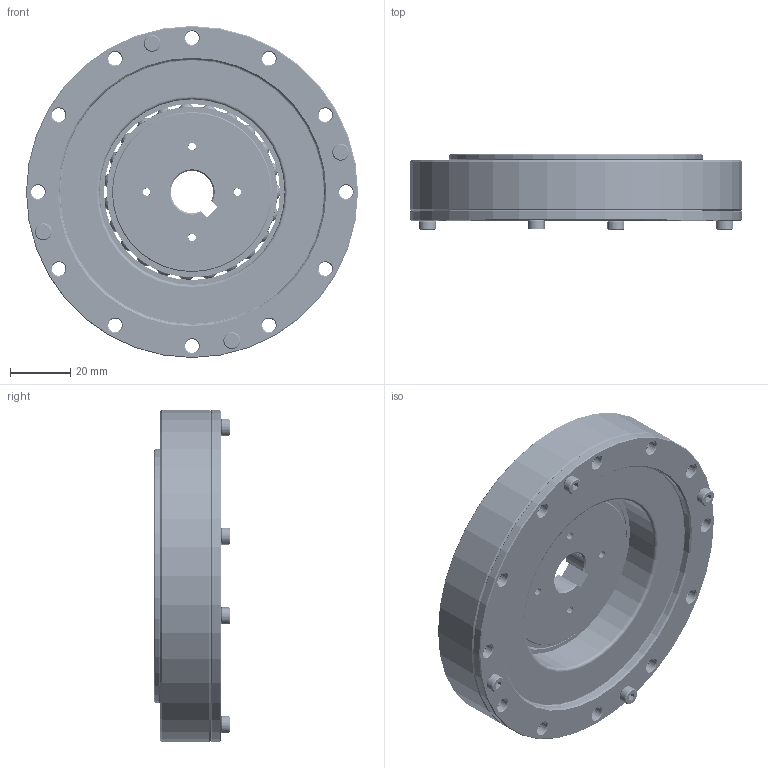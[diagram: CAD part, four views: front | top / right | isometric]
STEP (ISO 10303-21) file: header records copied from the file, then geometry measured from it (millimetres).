
FILE_DESCRIPTION(/* description */ (''),/* implementation_level */ '2;1');
FILE_NAME(/* name */ 'HBD25.stp',/* time_stamp */ '2023-02-20T14:52:08+08:00',/* author */ (''),/* organization */ (''),/* preprocessor_version */ 'ST-DEVELOPER v16',/* originating_system */ 'SIEMENS PLM Software NX 10.0',/* authorisation */ '');
FILE_SCHEMA (('CONFIG_CONTROL_DESIGN'));
Products named in the file (1): HBD25
Bounding box: 110 x 25 x 110 mm (x, y, z)
Volume: 121688.5 mm3; surface area: 95527.5 mm2
Topology: 39 solids, 39 shells, 864 faces, 2256 edges, 1465 vertices
Faces by surface type: cylinder 267, plane 256, cone 178, bspline 89, extrusion 34, sphere 23, torus 17
Full cylindrical faces by diameter (mm): 3 x64, 3.5 x4, 4.5 x38, 4.7 x1, 5 x1, 5.6 x4, 43.7 x1, 45.2 x1, 45.212 x1, 46.7 x2, 47.3 x1, 48.412 x2, 49.5 x1, 53 x1, 56.5 x1, 58.341 x2, 61.341 x2, 63.55 x1, 64.941 x1, 67 x3, 68.5 x1, 70 x1, 75.5 x1, 84 x3, 85.7 x2, 86 x1, 88 x1, 89.3 x1, 92 x1, 94 x3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
Entity records: 130425 total; most frequent: CARTESIAN_POINT 113632, ORIENTED_EDGE 3218, DIRECTION 3092, EDGE_CURVE 1609, AXIS2_PLACEMENT_3D 1325, VERTEX_POINT 1220, EDGE_LOOP 1205, ADVANCED_FACE 799
